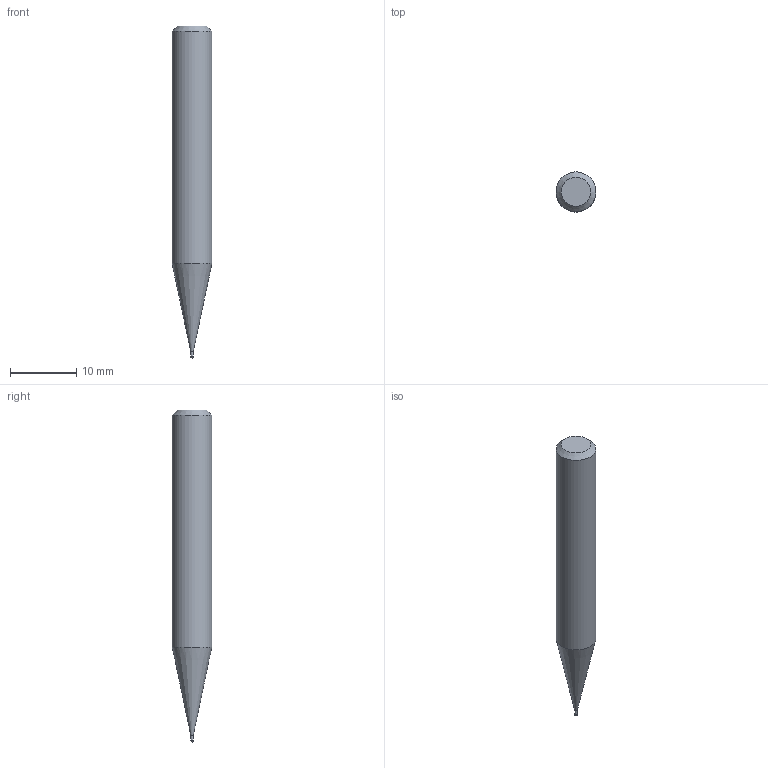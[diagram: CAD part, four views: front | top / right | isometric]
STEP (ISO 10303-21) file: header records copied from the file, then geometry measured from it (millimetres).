
FILE_DESCRIPTION((''),'2;1');
FILE_NAME('C:\Users\nsx150\AppData\Local\Temp\Mastercam 2021\3SYKECWX22\TEMP.step','2021-04-22T09:59:42',(''),(''),'STEP Write','Mastercam 2021 ... CNC Software, Inc.','');
FILE_SCHEMA(('AUTOMOTIVE_DESIGN'));
Length unit declared in the file: millimetre
Products named in the file (1): None
Bounding box: 6 x 6 x 50 mm (x, y, z)
Volume: 1138.6 mm3; surface area: 829.5 mm2
Topology: 2 solids, 2 shells, 9 faces, 14 edges, 8 vertices
Faces by surface type: plane 3, cylinder 3, cone 2, sphere 1
Full cylindrical faces by diameter (mm): 0.37 x1, 0.4 x1, 6 x1
Entity records: 211 total; most frequent: DIRECTION 36, CARTESIAN_POINT 25, AXIS2_PLACEMENT_3D 18, ORIENTED_EDGE 14, EDGE_LOOP 14, STYLED_ITEM 12, ADVANCED_FACE 9, FACE_BOUND 8
